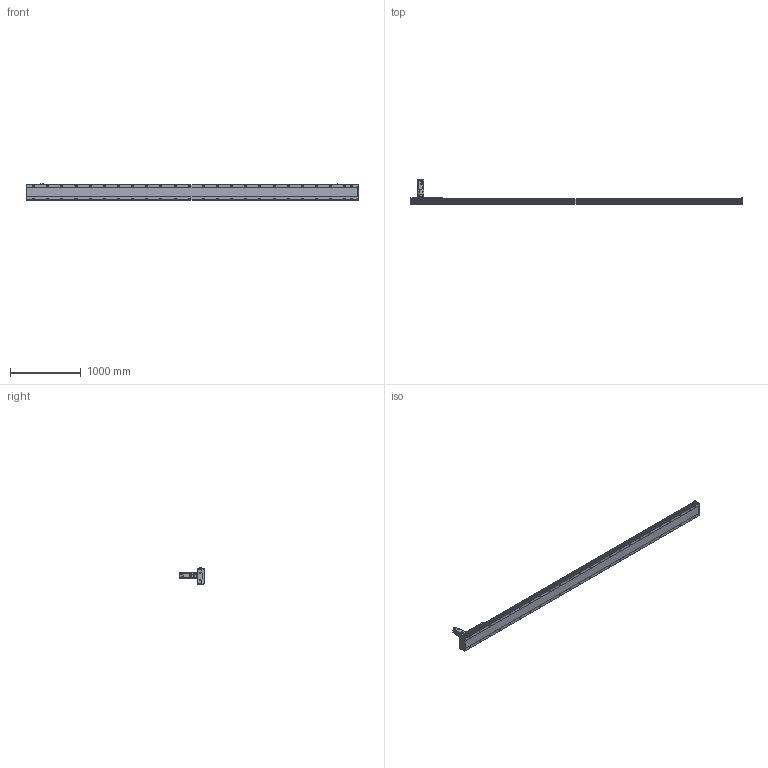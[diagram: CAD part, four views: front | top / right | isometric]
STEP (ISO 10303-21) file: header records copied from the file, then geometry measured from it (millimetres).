
FILE_DESCRIPTION(/* description */ ('STEP AP214'),/* implementation_level */ '2;1');
FILE_NAME(/* name */ 'SHS22A-L13-S4200-BC-T75-C1-N(0)',/* time_stamp */ '2022-06-15T02:28:41+02:00',/* author */ ('License CC BY-ND 4.0'),/* organization */ ('CADENAS'),/* preprocessor_version */ 'ST-DEVELOPER v18.102',/* originating_system */ 'PARTsolutions',/* authorisation */ ' ');
FILE_SCHEMA (('AUTOMOTIVE_DESIGN {1 0 10303 214 3 1 1}'));
Length unit declared in the file: millimetre
Products named in the file (7): SHS22A-L13-S4200-BC-T75-C1-N(0); PSC140-sensor; SHS22A-S4200_body2; T75-p1; SHS22A-S4200_body3; SHS22A-S4200_slider; SHS22A-L13-S4200-BC-T75-C1(0)_body
Assembly tree (13 placements, depth 2):
  SHS22A-L13-S4200-BC-T75-C1-N(0)
    PSC140-sensor  x3
    SHS22A-S4200_body2  x6
    T75-p1
    SHS22A-S4200_body3
    SHS22A-S4200_slider
    SHS22A-L13-S4200-BC-T75-C1(0)_body
Bounding box: 4694 x 350.8 x 238.4 mm (x, y, z)
Volume: 49980066.4 mm3; surface area: 5099980.6 mm2
Topology: 13 solids, 13 shells, 1989 faces, 5087 edges, 3328 vertices
Faces by surface type: plane 1376, cylinder 491, cone 113, torus 9
Full cylindrical faces by diameter (mm): 2.8 x3, 4.2 x2, 4.6 x3, 4.917 x4, 5 x4, 5.6 x24, 6 x31, 6.6 x24, 6.647 x8, 6.8 x9, 7.75 x6, 8 x3, 8.376 x48, 8.5 x48, 10 x4, 11 x4, 12 x24, 14 x48, 22 x1, 24.1 x1, 28 x1, 28.2 x1, 28.8 x1, 48.542 x1, 68 x1, 70 x1, 78 x1, 80 x2
Entity records: 34091 total; most frequent: CARTESIAN_POINT 6197, DIRECTION 5783, ORIENTED_EDGE 5124, EDGE_CURVE 2562, AXIS2_PLACEMENT_3D 2096, VERTEX_POINT 1870, FACE_BOUND 1864, EDGE_LOOP 1863
